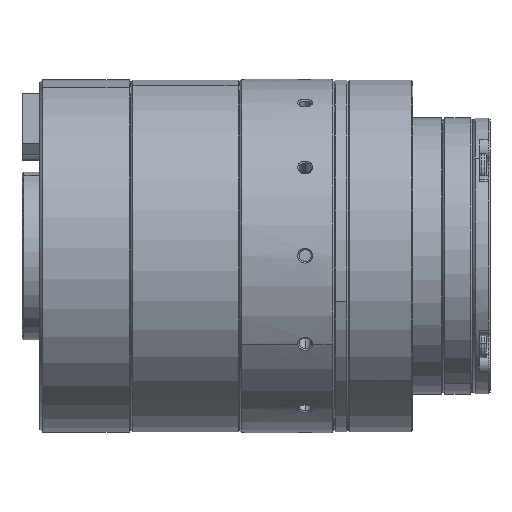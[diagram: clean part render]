
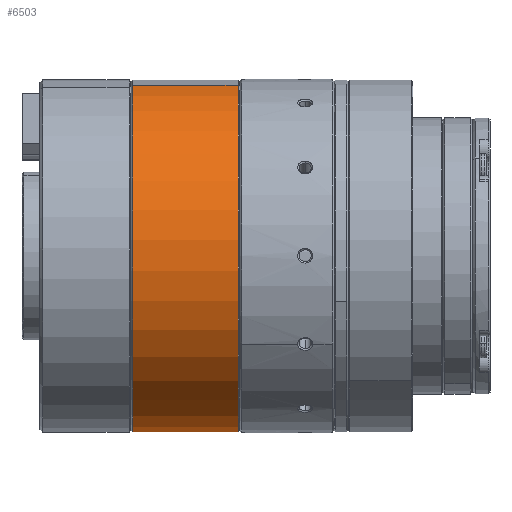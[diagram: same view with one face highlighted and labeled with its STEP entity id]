
A CAD part, top view. The second image highlights one B-rep face of the part: STEP entity #6503.
In plain terms, the highlighted cylindrical face has radius 30 mm (diameter 60 mm), a partial arc.
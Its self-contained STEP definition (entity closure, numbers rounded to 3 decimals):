
#576 = DIRECTION ( 'NONE',  ( -1., 0., 0. ) ) ;
#1322 = DIRECTION ( 'NONE',  ( 0., 0.966, 0.259 ) ) ;
#1342 = EDGE_CURVE ( 'NONE', #32763, #20962, #23447, .T. ) ;
#1687 = VERTEX_POINT ( 'NONE', #24665 ) ;
#1941 = DIRECTION ( 'NONE',  ( 1., 0., 0. ) ) ;
#2703 = ORIENTED_EDGE ( 'NONE', *, *, #37063, .T. ) ;
#4770 = VERTEX_POINT ( 'NONE', #19981 ) ;
#5433 = LINE ( 'NONE', #18015, #15502 ) ;
#6503 = ADVANCED_FACE ( 'NONE', ( #38445 ), #26277, .T. ) ;
#7366 = CARTESIAN_POINT ( 'NONE',  ( -29.3, 0., 0. ) ) ;
#7630 = AXIS2_PLACEMENT_3D ( 'NONE', #7366, #576, #35016 ) ;
#8629 = AXIS2_PLACEMENT_3D ( 'NONE', #11967, #33847, #17357 ) ;
#9835 = CARTESIAN_POINT ( 'NONE',  ( -29.3, 28.978, 7.765 ) ) ;
#10180 = CARTESIAN_POINT ( 'NONE',  ( -48., 0., 0. ) ) ;
#10806 = DIRECTION ( 'NONE',  ( 1., 0., 0. ) ) ;
#11420 = VECTOR ( 'NONE', #34415, 1000. ) ;
#11967 = CARTESIAN_POINT ( 'NONE',  ( -47.2, 0., 0. ) ) ;
#15502 = VECTOR ( 'NONE', #1941, 1000. ) ;
#17357 = DIRECTION ( 'NONE',  ( 0., -0.966, -0.259 ) ) ;
#18015 = CARTESIAN_POINT ( 'NONE',  ( -48., -28.978, -7.765 ) ) ;
#19981 = CARTESIAN_POINT ( 'NONE',  ( -47.2, 28.978, 7.765 ) ) ;
#20396 = EDGE_CURVE ( 'NONE', #4770, #20962, #37516, .T. ) ;
#20532 = ORIENTED_EDGE ( 'NONE', *, *, #1342, .T. ) ;
#20560 = AXIS2_PLACEMENT_3D ( 'NONE', #10180, #10806, #1322 ) ;
#20962 = VERTEX_POINT ( 'NONE', #9835 ) ;
#23447 = CIRCLE ( 'NONE', #7630, 30. ) ;
#23753 = EDGE_CURVE ( 'NONE', #1687, #32763, #5433, .T. ) ;
#24665 = CARTESIAN_POINT ( 'NONE',  ( -47.2, -28.978, -7.765 ) ) ;
#26277 = CYLINDRICAL_SURFACE ( 'NONE', #20560, 30. ) ;
#27986 = ORIENTED_EDGE ( 'NONE', *, *, #23753, .T. ) ;
#29052 = CIRCLE ( 'NONE', #8629, 30. ) ;
#32763 = VERTEX_POINT ( 'NONE', #39920 ) ;
#33847 = DIRECTION ( 'NONE',  ( 1., 0., 0. ) ) ;
#34415 = DIRECTION ( 'NONE',  ( 1., 0., 0. ) ) ;
#34620 = CARTESIAN_POINT ( 'NONE',  ( -48., 28.978, 7.765 ) ) ;
#35016 = DIRECTION ( 'NONE',  ( 0., -0.966, -0.259 ) ) ;
#36853 = EDGE_LOOP ( 'NONE', ( #2703, #27986, #20532, #40038 ) ) ;
#37063 = EDGE_CURVE ( 'NONE', #4770, #1687, #29052, .T. ) ;
#37516 = LINE ( 'NONE', #34620, #11420 ) ;
#38445 = FACE_OUTER_BOUND ( 'NONE', #36853, .T. ) ;
#39920 = CARTESIAN_POINT ( 'NONE',  ( -29.3, -28.978, -7.765 ) ) ;
#40038 = ORIENTED_EDGE ( 'NONE', *, *, #20396, .F. ) ;
